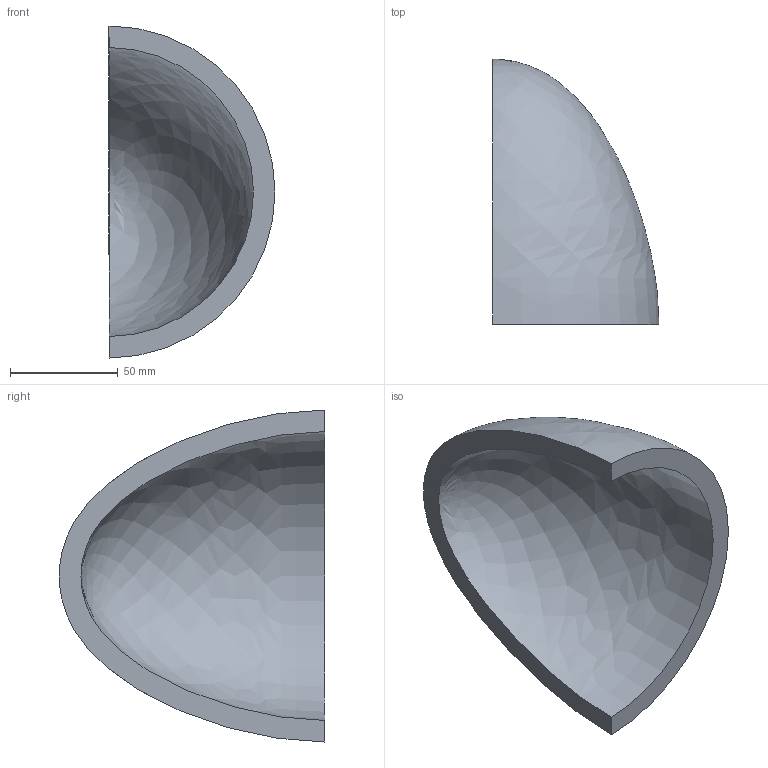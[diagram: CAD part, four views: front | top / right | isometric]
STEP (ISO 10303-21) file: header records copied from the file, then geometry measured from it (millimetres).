
FILE_DESCRIPTION(('CATIA V5 STEP Exchange'),'2;1');
FILE_NAME('C:\_Andres\UNIVERSIDAD\IQS\ASIGNATURAS\DAO\EXF\EXF-16172c\2inicio\Perez_Pellicer_Ej10_v23.stp','2017-03-05T22:31:13+00:00',('none'),('none'),'CATIA Version 5-6 Release 2014 SP1 HF18','CATIA V5 STEP AP203','none');
FILE_SCHEMA(('CONFIG_CONTROL_DESIGN'));
Length unit declared in the file: millimetre
Products named in the file (1): Perez_Pellicer_Ej10_v23
Bounding box: 77 x 123 x 154 mm (x, y, z)
Volume: 229771 mm3; surface area: 51325.9 mm2
Topology: 1 solids, 1 shells, 4 faces, 10 edges, 6 vertices
Faces by surface type: revolution 2, plane 2
Entity records: 248 total; most frequent: CARTESIAN_POINT 126, ORIENTED_EDGE 16, DIRECTION 10, EDGE_CURVE 8, B_SPLINE_CURVE_WITH_KNOTS 6, VERTEX_POINT 6, AXIS2_PLACEMENT_3D 5, ADVANCED_FACE 4
